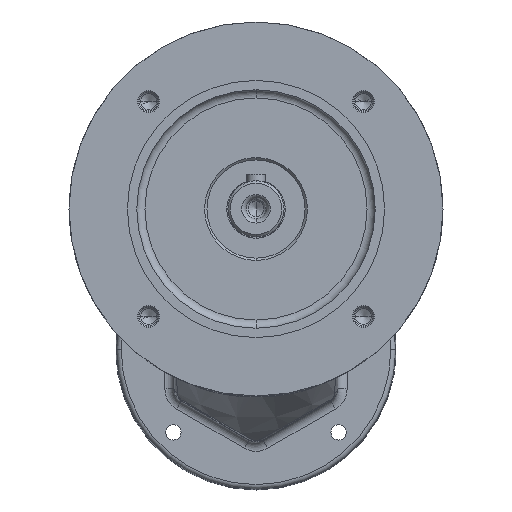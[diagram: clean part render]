
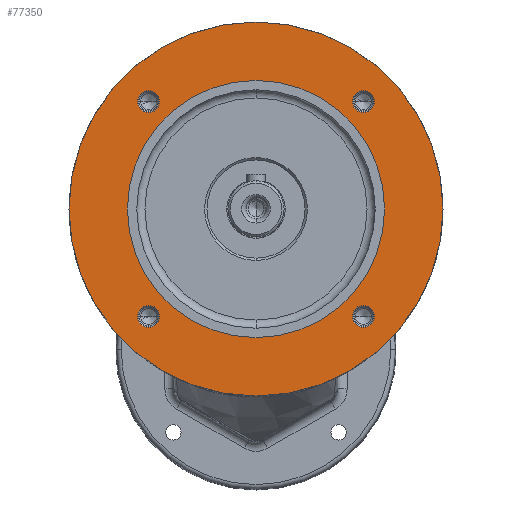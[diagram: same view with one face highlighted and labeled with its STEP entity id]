
A CAD part, top view. The second image highlights one B-rep face of the part: STEP entity #77350.
In plain terms, the highlighted planar face has unit normal (0, 0, 1).
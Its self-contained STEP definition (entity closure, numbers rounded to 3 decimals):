
#6857 = VERTEX_POINT ( 'NONE', #60262 ) ;
#6861 = EDGE_CURVE ( 'NONE', #6863, #6857, #60255, .T. ) ;
#6863 = VERTEX_POINT ( 'NONE', #60246 ) ;
#6912 = VERTEX_POINT ( 'NONE', #60460 ) ;
#6916 = EDGE_CURVE ( 'NONE', #6918, #6912, #60455, .T. ) ;
#6918 = VERTEX_POINT ( 'NONE', #60446 ) ;
#6932 = VERTEX_POINT ( 'NONE', #60416 ) ;
#6936 = EDGE_CURVE ( 'NONE', #6938, #6932, #60409, .T. ) ;
#6938 = VERTEX_POINT ( 'NONE', #60400 ) ;
#6995 = VERTEX_POINT ( 'NONE', #60586 ) ;
#6999 = EDGE_CURVE ( 'NONE', #7001, #6995, #60580, .T. ) ;
#7001 = VERTEX_POINT ( 'NONE', #60571 ) ;
#43148 = DIRECTION ( 'NONE',  ( 0., -1., 0. ) ) ;
#43150 = DIRECTION ( 'NONE',  ( 0., 0., -1. ) ) ;
#43152 = CARTESIAN_POINT ( 'NONE',  ( -45.962, -45.962, 0. ) ) ;
#43154 = AXIS2_PLACEMENT_3D ( 'NONE', #43152, #43150, #43148 ) ;
#43195 = DIRECTION ( 'NONE',  ( 0., -1., 0. ) ) ;
#43197 = DIRECTION ( 'NONE',  ( 0., 0., -1. ) ) ;
#43199 = CARTESIAN_POINT ( 'NONE',  ( 45.962, 45.962, 0. ) ) ;
#43201 = AXIS2_PLACEMENT_3D ( 'NONE', #43199, #43197, #43195 ) ;
#43202 = CIRCLE ( 'NONE', #43201, 4.7 ) ;
#43219 = CIRCLE ( 'NONE', #43154, 4.7 ) ;
#43232 = DIRECTION ( 'NONE',  ( 0., 0., 1. ) ) ;
#43234 = CARTESIAN_POINT ( 'NONE',  ( 0., 55., 0. ) ) ;
#43236 = AXIS2_PLACEMENT_3D ( 'NONE', #43234, #43232, #43392 ) ;
#43237 = PLANE ( 'NONE',  #43236 ) ;
#43242 = FACE_OUTER_BOUND ( 'NONE', #77396, .T. ) ;
#43244 = FACE_BOUND ( 'NONE', #77392, .T. ) ;
#43246 = FACE_BOUND ( 'NONE', #77337, .T. ) ;
#43248 = FACE_BOUND ( 'NONE', #77333, .T. ) ;
#43249 = FACE_BOUND ( 'NONE', #77406, .T. ) ;
#43251 = FACE_BOUND ( 'NONE', #77351, .T. ) ;
#43267 = DIRECTION ( 'NONE',  ( 0., 1., 0. ) ) ;
#43268 = DIRECTION ( 'NONE',  ( 0., 0., -1. ) ) ;
#43269 = AXIS2_PLACEMENT_3D ( 'NONE', #43285, #43268, #43267 ) ;
#43271 = CIRCLE ( 'NONE', #43269, 80. ) ;
#43285 = CARTESIAN_POINT ( 'NONE',  ( 0., 0., 0. ) ) ;
#43392 = DIRECTION ( 'NONE',  ( 0., -1., 0. ) ) ;
#43504 = DIRECTION ( 'NONE',  ( 0., 1., 0. ) ) ;
#43506 = DIRECTION ( 'NONE',  ( 0., 0., -1. ) ) ;
#43508 = CARTESIAN_POINT ( 'NONE',  ( 0., 0., 0. ) ) ;
#43510 = AXIS2_PLACEMENT_3D ( 'NONE', #43508, #43506, #43504 ) ;
#43511 = CIRCLE ( 'NONE', #43510, 55. ) ;
#43517 = DIRECTION ( 'NONE',  ( 0., -1., 0. ) ) ;
#43519 = DIRECTION ( 'NONE',  ( 0., 0., -1. ) ) ;
#43521 = CARTESIAN_POINT ( 'NONE',  ( -45.962, 45.962, 0. ) ) ;
#43522 = AXIS2_PLACEMENT_3D ( 'NONE', #43521, #43519, #43517 ) ;
#43524 = CIRCLE ( 'NONE', #43522, 4.7 ) ;
#43625 = DIRECTION ( 'NONE',  ( 0., -1., 0. ) ) ;
#43627 = DIRECTION ( 'NONE',  ( 0., 0., -1. ) ) ;
#43628 = CARTESIAN_POINT ( 'NONE',  ( 45.962, -45.962, 0. ) ) ;
#43630 = AXIS2_PLACEMENT_3D ( 'NONE', #43628, #43627, #43625 ) ;
#43632 = CIRCLE ( 'NONE', #43630, 4.7 ) ;
#60246 = CARTESIAN_POINT ( 'NONE',  ( -41.262, 45.962, 0. ) ) ;
#60248 = DIRECTION ( 'NONE',  ( 0., -1., 0. ) ) ;
#60250 = DIRECTION ( 'NONE',  ( 0., 0., -1. ) ) ;
#60251 = CARTESIAN_POINT ( 'NONE',  ( -45.962, 45.962, 0. ) ) ;
#60253 = AXIS2_PLACEMENT_3D ( 'NONE', #60251, #60250, #60248 ) ;
#60255 = CIRCLE ( 'NONE', #60253, 4.7 ) ;
#60262 = CARTESIAN_POINT ( 'NONE',  ( -50.662, 45.962, 0. ) ) ;
#60400 = CARTESIAN_POINT ( 'NONE',  ( 50.662, 45.962, 0. ) ) ;
#60402 = DIRECTION ( 'NONE',  ( 0., -1., 0. ) ) ;
#60404 = DIRECTION ( 'NONE',  ( 0., 0., -1. ) ) ;
#60406 = CARTESIAN_POINT ( 'NONE',  ( 45.962, 45.962, 0. ) ) ;
#60408 = AXIS2_PLACEMENT_3D ( 'NONE', #60406, #60404, #60402 ) ;
#60409 = CIRCLE ( 'NONE', #60408, 4.7 ) ;
#60416 = CARTESIAN_POINT ( 'NONE',  ( 41.262, 45.962, 0. ) ) ;
#60446 = CARTESIAN_POINT ( 'NONE',  ( 50.662, -45.962, 0. ) ) ;
#60448 = DIRECTION ( 'NONE',  ( 0., -1., 0. ) ) ;
#60450 = DIRECTION ( 'NONE',  ( 0., 0., -1. ) ) ;
#60452 = CARTESIAN_POINT ( 'NONE',  ( 45.962, -45.962, 0. ) ) ;
#60453 = AXIS2_PLACEMENT_3D ( 'NONE', #60452, #60450, #60448 ) ;
#60455 = CIRCLE ( 'NONE', #60453, 4.7 ) ;
#60460 = CARTESIAN_POINT ( 'NONE',  ( 41.262, -45.962, 0. ) ) ;
#60571 = CARTESIAN_POINT ( 'NONE',  ( -41.262, -45.962, 0. ) ) ;
#60573 = DIRECTION ( 'NONE',  ( 0., -1., 0. ) ) ;
#60575 = DIRECTION ( 'NONE',  ( 0., 0., -1. ) ) ;
#60577 = CARTESIAN_POINT ( 'NONE',  ( -45.962, -45.962, 0. ) ) ;
#60578 = AXIS2_PLACEMENT_3D ( 'NONE', #60577, #60575, #60573 ) ;
#60580 = CIRCLE ( 'NONE', #60578, 4.7 ) ;
#60586 = CARTESIAN_POINT ( 'NONE',  ( -50.662, -45.962, 0. ) ) ;
#75941 = CARTESIAN_POINT ( 'NONE',  ( 0., 55., 0. ) ) ;
#75947 = CARTESIAN_POINT ( 'NONE',  ( 0., 80., 0. ) ) ;
#75948 = CARTESIAN_POINT ( 'NONE',  ( 0., -80., 0. ) ) ;
#75987 = DIRECTION ( 'NONE',  ( 0., 1., 0. ) ) ;
#75988 = DIRECTION ( 'NONE',  ( 0., 0., -1. ) ) ;
#75989 = CARTESIAN_POINT ( 'NONE',  ( 0., 0., 0. ) ) ;
#75990 = AXIS2_PLACEMENT_3D ( 'NONE', #75989, #75988, #75987 ) ;
#75991 = CIRCLE ( 'NONE', #75990, 55. ) ;
#76001 = DIRECTION ( 'NONE',  ( 0., 1., 0. ) ) ;
#76002 = DIRECTION ( 'NONE',  ( 0., 0., -1. ) ) ;
#76003 = CARTESIAN_POINT ( 'NONE',  ( 0., 0., 0. ) ) ;
#76004 = AXIS2_PLACEMENT_3D ( 'NONE', #76003, #76002, #76001 ) ;
#76005 = CIRCLE ( 'NONE', #76004, 80. ) ;
#76036 = CARTESIAN_POINT ( 'NONE',  ( 0., -55., 0. ) ) ;
#77330 = ORIENTED_EDGE ( 'NONE', *, *, #6999, .T. ) ;
#77331 = ORIENTED_EDGE ( 'NONE', *, *, #77332, .T. ) ;
#77332 = EDGE_CURVE ( 'NONE', #6995, #7001, #43219, .T. ) ;
#77333 = EDGE_LOOP ( 'NONE', ( #77334, #77335 ) ) ;
#77334 = ORIENTED_EDGE ( 'NONE', *, *, #6936, .T. ) ;
#77335 = ORIENTED_EDGE ( 'NONE', *, *, #77336, .T. ) ;
#77336 = EDGE_CURVE ( 'NONE', #6932, #6938, #43202, .T. ) ;
#77337 = EDGE_LOOP ( 'NONE', ( #77338, #77390 ) ) ;
#77338 = ORIENTED_EDGE ( 'NONE', *, *, #6861, .T. ) ;
#77345 = EDGE_CURVE ( 'NONE', #78254, #78255, #43271, .T. ) ;
#77350 = ADVANCED_FACE ( 'NONE', ( #43251, #43249, #43248, #43246, #43244, #43242 ), #43237, .T. ) ;
#77351 = EDGE_LOOP ( 'NONE', ( #77352, #77404 ) ) ;
#77352 = ORIENTED_EDGE ( 'NONE', *, *, #6916, .T. ) ;
#77390 = ORIENTED_EDGE ( 'NONE', *, *, #77391, .T. ) ;
#77391 = EDGE_CURVE ( 'NONE', #6857, #6863, #43524, .T. ) ;
#77392 = EDGE_LOOP ( 'NONE', ( #77393, #77394 ) ) ;
#77393 = ORIENTED_EDGE ( 'NONE', *, *, #78270, .T. ) ;
#77394 = ORIENTED_EDGE ( 'NONE', *, *, #77395, .T. ) ;
#77395 = EDGE_CURVE ( 'NONE', #78275, #78260, #43511, .T. ) ;
#77396 = EDGE_LOOP ( 'NONE', ( #77397, #77398 ) ) ;
#77397 = ORIENTED_EDGE ( 'NONE', *, *, #78265, .F. ) ;
#77398 = ORIENTED_EDGE ( 'NONE', *, *, #77345, .F. ) ;
#77404 = ORIENTED_EDGE ( 'NONE', *, *, #77405, .T. ) ;
#77405 = EDGE_CURVE ( 'NONE', #6912, #6918, #43632, .T. ) ;
#77406 = EDGE_LOOP ( 'NONE', ( #77330, #77331 ) ) ;
#78254 = VERTEX_POINT ( 'NONE', #75948 ) ;
#78255 = VERTEX_POINT ( 'NONE', #75947 ) ;
#78260 = VERTEX_POINT ( 'NONE', #75941 ) ;
#78265 = EDGE_CURVE ( 'NONE', #78255, #78254, #76005, .T. ) ;
#78270 = EDGE_CURVE ( 'NONE', #78260, #78275, #75991, .T. ) ;
#78275 = VERTEX_POINT ( 'NONE', #76036 ) ;
